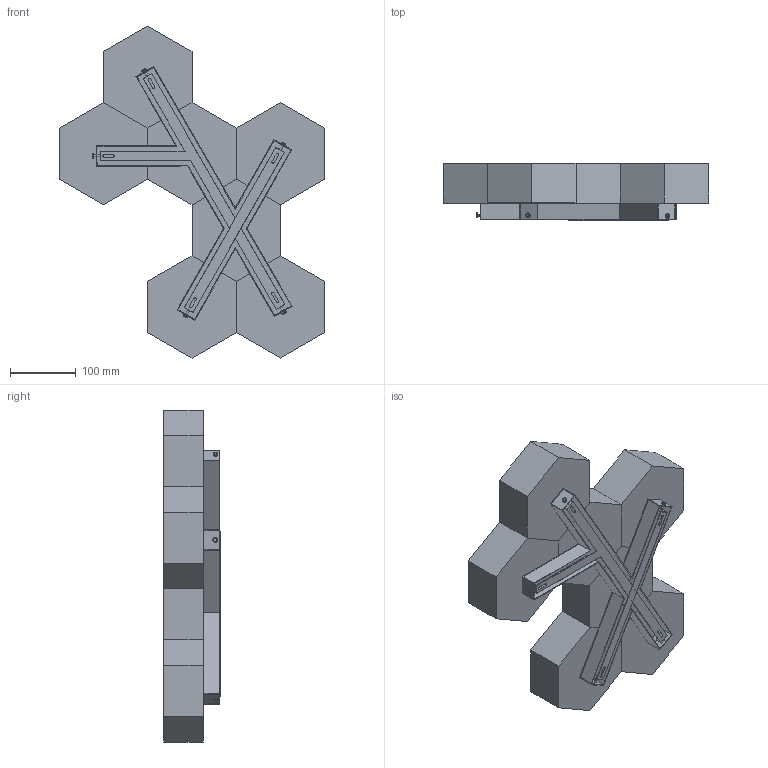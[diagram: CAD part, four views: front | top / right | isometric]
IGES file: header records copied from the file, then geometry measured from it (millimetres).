
Start section: SolidWorks IGES file using analytic representation for surfaces
Global section: file name: F:\燠隴矨\3D\2026-3\Honeycomb Travertine Ceiling Lamp-7Lights B .IGS,15; native system: HSolidWorks 2022; preprocessor: SolidWorks 2022; author: MyPC; date: 260330.153120; units: millimetre
Bounding box: 402.7 x 86 x 503.75 mm (x, y, z)
Surface area: 841571 mm2 (no closed solid volume)
Topology: 0 solids, 0 shells, 310 faces, 3898 edges, 3898 vertices
Faces by surface type: bspline 232, revolution 78
